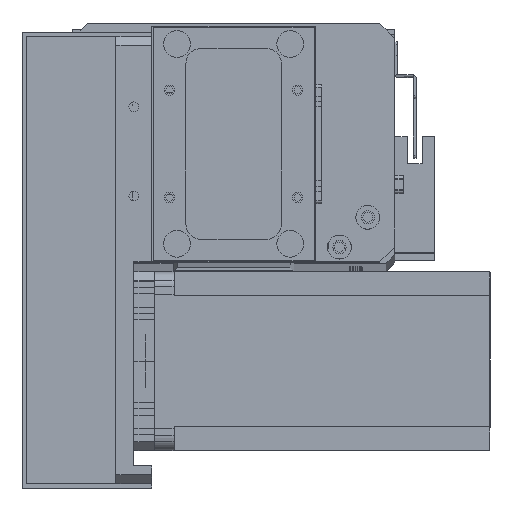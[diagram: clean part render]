
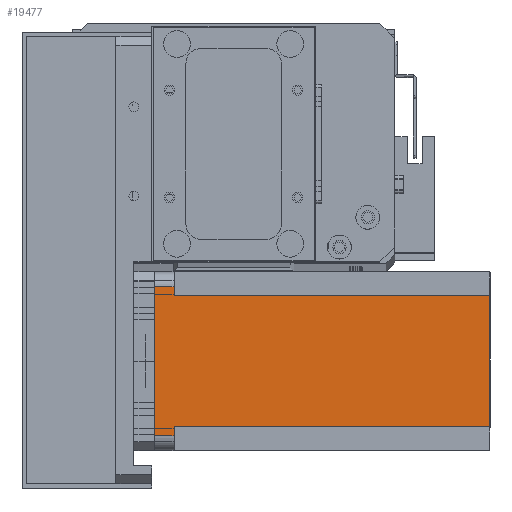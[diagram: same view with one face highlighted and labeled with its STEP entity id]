
A CAD part, top view. The second image highlights one B-rep face of the part: STEP entity #19477.
In plain terms, the highlighted planar face has unit normal (0, 0, 1) as drawn and (0, 1, 0) by its records, which use the part's own axes.
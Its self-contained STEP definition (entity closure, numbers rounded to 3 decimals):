
#6 = CARTESIAN_POINT ( 'NONE',  ( 52., 60., -6.5 ) ) ;
#689 = VECTOR ( 'NONE', #13276, 1000. ) ;
#812 = CARTESIAN_POINT ( 'NONE',  ( 5., 60., -6.5 ) ) ;
#1107 = CARTESIAN_POINT ( 'NONE',  ( 52., 60., -112.5 ) ) ;
#1432 = LINE ( 'NONE', #14420, #7611 ) ;
#2126 = DIRECTION ( 'NONE',  ( 0., 1., 0. ) ) ;
#2172 = DIRECTION ( 'NONE',  ( 0., 0., 1. ) ) ;
#2333 = CARTESIAN_POINT ( 'NONE',  ( 55., 60., -6.5 ) ) ;
#2722 = DIRECTION ( 'NONE',  ( 0., 0., -1. ) ) ;
#3349 = VERTEX_POINT ( 'NONE', #6 ) ;
#3605 = CARTESIAN_POINT ( 'NONE',  ( 8., 60., -6.5 ) ) ;
#3689 = ORIENTED_EDGE ( 'NONE', *, *, #26129, .T. ) ;
#3915 = CARTESIAN_POINT ( 'NONE',  ( 0., 60., -112.5 ) ) ;
#4586 = VECTOR ( 'NONE', #2722, 1000. ) ;
#4672 = PLANE ( 'NONE',  #17138 ) ;
#5304 = VECTOR ( 'NONE', #17986, 1000. ) ;
#5586 = CARTESIAN_POINT ( 'NONE',  ( 52., 60., -6.5 ) ) ;
#6794 = VERTEX_POINT ( 'NONE', #2333 ) ;
#7592 = EDGE_CURVE ( 'NONE', #11469, #25495, #15643, .T. ) ;
#7611 = VECTOR ( 'NONE', #31083, 1000. ) ;
#7698 = LINE ( 'NONE', #5586, #689 ) ;
#7984 = EDGE_CURVE ( 'NONE', #10006, #11469, #30517, .T. ) ;
#8382 = CARTESIAN_POINT ( 'NONE',  ( 5., 60., 0. ) ) ;
#8407 = ORIENTED_EDGE ( 'NONE', *, *, #30984, .F. ) ;
#8409 = VECTOR ( 'NONE', #11602, 1000. ) ;
#8429 = ORIENTED_EDGE ( 'NONE', *, *, #16542, .T. ) ;
#9022 = VECTOR ( 'NONE', #23096, 1000. ) ;
#9314 = ORIENTED_EDGE ( 'NONE', *, *, #16835, .F. ) ;
#10006 = VERTEX_POINT ( 'NONE', #3605 ) ;
#11454 = LINE ( 'NONE', #17906, #4586 ) ;
#11469 = VERTEX_POINT ( 'NONE', #812 ) ;
#11602 = DIRECTION ( 'NONE',  ( -1., 0., 0. ) ) ;
#11851 = VERTEX_POINT ( 'NONE', #19183 ) ;
#12448 = VECTOR ( 'NONE', #21363, 1000. ) ;
#13276 = DIRECTION ( 'NONE',  ( 1., 0., 0. ) ) ;
#14420 = CARTESIAN_POINT ( 'NONE',  ( 0., 60., 0. ) ) ;
#14941 = ORIENTED_EDGE ( 'NONE', *, *, #7984, .T. ) ;
#15643 = LINE ( 'NONE', #24299, #9022 ) ;
#15805 = LINE ( 'NONE', #3915, #8409 ) ;
#16270 = VECTOR ( 'NONE', #2172, 1000. ) ;
#16322 = ORIENTED_EDGE ( 'NONE', *, *, #21680, .F. ) ;
#16370 = ORIENTED_EDGE ( 'NONE', *, *, #24283, .F. ) ;
#16542 = EDGE_CURVE ( 'NONE', #29538, #6794, #19751, .T. ) ;
#16835 = EDGE_CURVE ( 'NONE', #20309, #3349, #23485, .T. ) ;
#17068 = CARTESIAN_POINT ( 'NONE',  ( 55., 60., 0. ) ) ;
#17138 = AXIS2_PLACEMENT_3D ( 'NONE', #17368, #2126, #19842 ) ;
#17368 = CARTESIAN_POINT ( 'NONE',  ( 0., 60., -112.5 ) ) ;
#17906 = CARTESIAN_POINT ( 'NONE',  ( 8., 60., -112.5 ) ) ;
#17986 = DIRECTION ( 'NONE',  ( -1., 0., 0. ) ) ;
#18082 = ORIENTED_EDGE ( 'NONE', *, *, #7592, .T. ) ;
#18492 = CARTESIAN_POINT ( 'NONE',  ( 8., 60., -6.5 ) ) ;
#19183 = CARTESIAN_POINT ( 'NONE',  ( 8., 60., -112.5 ) ) ;
#19477 = ADVANCED_FACE ( 'NONE', ( #20197 ), #4672, .T. ) ;
#19751 = LINE ( 'NONE', #28341, #12448 ) ;
#19842 = DIRECTION ( 'NONE',  ( 0., 0., 1. ) ) ;
#19877 = CARTESIAN_POINT ( 'NONE',  ( 52., 60., -112.5 ) ) ;
#20197 = FACE_OUTER_BOUND ( 'NONE', #23111, .T. ) ;
#20309 = VERTEX_POINT ( 'NONE', #1107 ) ;
#21363 = DIRECTION ( 'NONE',  ( 0., 0., -1. ) ) ;
#21680 = EDGE_CURVE ( 'NONE', #29538, #25495, #1432, .T. ) ;
#23096 = DIRECTION ( 'NONE',  ( 0., 0., 1. ) ) ;
#23111 = EDGE_LOOP ( 'NONE', ( #16322, #8429, #16370, #9314, #3689, #8407, #14941, #18082 ) ) ;
#23485 = LINE ( 'NONE', #19877, #16270 ) ;
#24283 = EDGE_CURVE ( 'NONE', #3349, #6794, #7698, .T. ) ;
#24299 = CARTESIAN_POINT ( 'NONE',  ( 5., 60., -112.5 ) ) ;
#25495 = VERTEX_POINT ( 'NONE', #8382 ) ;
#26129 = EDGE_CURVE ( 'NONE', #20309, #11851, #15805, .T. ) ;
#28341 = CARTESIAN_POINT ( 'NONE',  ( 55., 60., -112.5 ) ) ;
#29538 = VERTEX_POINT ( 'NONE', #17068 ) ;
#30517 = LINE ( 'NONE', #18492, #5304 ) ;
#30984 = EDGE_CURVE ( 'NONE', #10006, #11851, #11454, .T. ) ;
#31083 = DIRECTION ( 'NONE',  ( -1., 0., 0. ) ) ;
